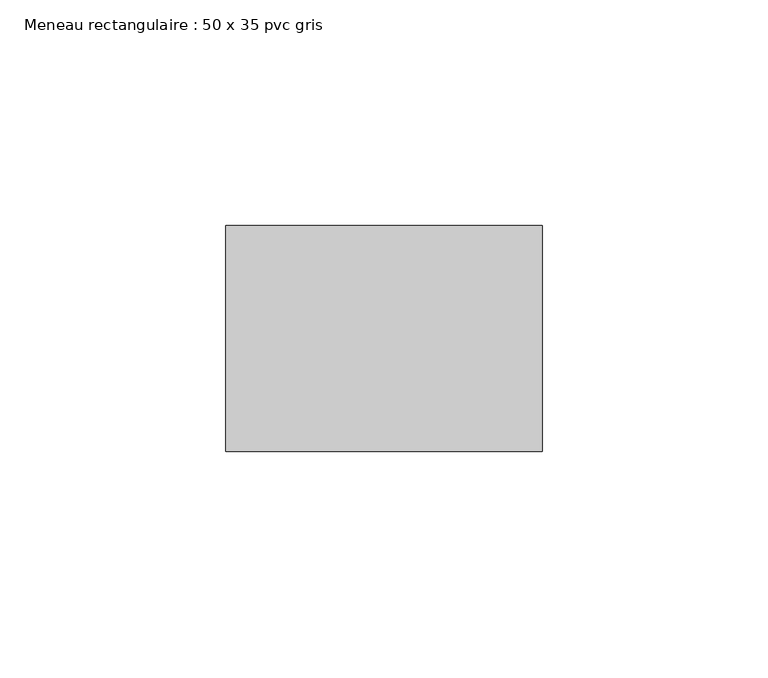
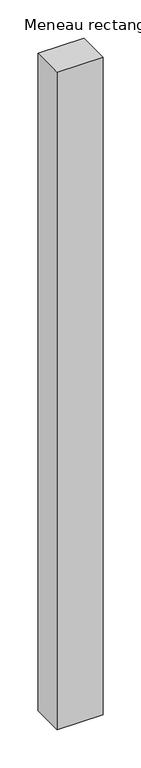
"""IFC4 building model written with IfcOpenShell, lengths in millimetres: member geometry, Meneau rectangulaire : 50 x 35 pvc gris."""

import ifcopenshell
import ifcopenshell.guid

model = None  # the IFC model being written
_history = None  # IfcOwnerHistory: only IFC2X3 demands one
_inside = {}  # id of a spatial element -> (the spatial element, [elements in it])
_under = {}  # id of a project, library or spatial element -> (it, [spatial elements below it])
_declared = {}  # id of a project -> (the project, [libraries it declares])
_typed = {}  # id of a type object -> (the type object, [elements of that type])
_made_of = {}  # id of a material, layer set ... -> (it, [elements and type objects made of it])


def new_model(schema):
    """Start an empty IFC model of exactly this schema.

    Asked for "IFC4X3", IfcOpenShell would pick the latest addendum, in which some entities
    have other attributes; the version numbers below select the first issue.
    IFC2X3 requires an IfcOwnerHistory on every rooted entity: one is made here for all.
    """
    global model, _history
    if schema == "IFC4X3":
        model = ifcopenshell.file(schema_version=(4, 3, 0, 0))
    else:
        model = ifcopenshell.file(schema=schema)
    _inside.clear()
    _under.clear()
    _declared.clear()
    _typed.clear()
    _made_of.clear()
    _history = None
    if model.schema == "IFC2X3":
        org = make("IfcOrganization", Name="unknown")
        user = make(
            "IfcPersonAndOrganization",
            ThePerson=make("IfcPerson", FamilyName="unknown"),
            TheOrganization=org,
        )
        app = make(
            "IfcApplication",
            ApplicationDeveloper=org,
            Version="unknown",
            ApplicationFullName="unknown",
            ApplicationIdentifier="unknown",
        )
        _history = make(
            "IfcOwnerHistory",
            OwningUser=user,
            OwningApplication=app,
            ChangeAction="ADDED",
            CreationDate=0,
        )
    return model


def make(cls, **values):
    """One entity of the class cls with the attributes given. An attribute that is None is left unset."""
    return model.create_entity(
        cls, **{name: value for name, value in values.items() if value is not None}
    )


def rooted(cls, **values):
    """An entity with a GlobalId (a new one), such as an element, a storey or a relation."""
    return make(cls, GlobalId=ifcopenshell.guid.new(), OwnerHistory=_history, **values)


def si_unit(unit_type, name, prefix=None):
    """IfcSIUnit, for example si_unit("LENGTHUNIT", "METRE", prefix="MILLI")."""
    return make("IfcSIUnit", UnitType=unit_type, Prefix=prefix, Name=name)


def assignment(units):
    """IfcUnitAssignment: the units of a project."""
    return None if units is None else make("IfcUnitAssignment", Units=units)


def point(xyz):
    """IfcCartesianPoint."""
    return None if xyz is None else make("IfcCartesianPoint", Coordinates=xyz)


def direction(xyz):
    """IfcDirection."""
    return None if xyz is None else make("IfcDirection", DirectionRatios=xyz)


def frame(location, z_axis=None, x_axis=None):
    """IfcAxis2Placement3D, a coordinate frame: its origin and axes. An axis left out is left unset."""
    return make(
        "IfcAxis2Placement3D",
        Location=point(location),
        Axis=direction(z_axis),
        RefDirection=direction(x_axis),
    )


def origin():
    """The frame at (0, 0, 0) with its axes left unset."""
    return frame((0.0, 0.0, 0.0))


def place(relative_to, where):
    """IfcLocalPlacement: puts the frame where relative to a parent placement (None: the world)."""
    return make(
        "IfcLocalPlacement", PlacementRelTo=relative_to, RelativePlacement=where
    )


def context(
    kind, dimensions, precision=None, world=None, true_north=None, identifier=None
):
    """IfcGeometricRepresentationContext, for example the 3D "Model" context."""
    return make(
        "IfcGeometricRepresentationContext",
        ContextIdentifier=identifier,
        ContextType=kind,
        CoordinateSpaceDimension=dimensions,
        Precision=precision,
        WorldCoordinateSystem=world,
        TrueNorth=true_north,
    )


def project(units=None, contexts=None):
    """IfcProject with its units and contexts."""
    return rooted(
        "IfcProject",
        Name="project",
        RepresentationContexts=contexts,
        UnitsInContext=assignment(units),
    )


def spatial(cls, under=None, at=None, **own):
    """A site, building, storey or space (cls), placed at a placement, below another one or the project."""
    s = rooted(cls, ObjectPlacement=at, **own)
    if under is not None:
        _under.setdefault(under.id(), (under, []))[1].append(s)
    return s


def polyline(points):
    """IfcPolyline through the points."""
    return make("IfcPolyline", Points=[point(p) for p in points])


def outline(outer, holes=None, kind="AREA"):
    """IfcArbitraryClosedProfileDef: a profile drawn as a closed curve; with holes, ...WithVoids."""
    if holes is None:
        return make("IfcArbitraryClosedProfileDef", ProfileType=kind, OuterCurve=outer)
    return make(
        "IfcArbitraryProfileDefWithVoids",
        ProfileType=kind,
        OuterCurve=outer,
        InnerCurves=holes,
    )


def extrude(swept, where, along, depth):
    """IfcExtrudedAreaSolid: the profile swept, set in the frame where, extruded along a direction by depth."""
    return make(
        "IfcExtrudedAreaSolid",
        SweptArea=swept,
        Position=where,
        ExtrudedDirection=direction(along),
        Depth=depth,
    )


def shape(context_of_items, identifier, shape_type, items):
    """IfcShapeRepresentation: the items that make up one representation, for example the "Body"."""
    return make(
        "IfcShapeRepresentation",
        ContextOfItems=context_of_items,
        RepresentationIdentifier=identifier,
        RepresentationType=shape_type,
        Items=items,
    )


def source(mapping_origin, context_of_items, identifier, shape_type, items):
    """IfcRepresentationMap: a shape defined once, which mapped items show again and again."""
    return make(
        "IfcRepresentationMap",
        MappingOrigin=mapping_origin,
        MappedRepresentation=shape(context_of_items, identifier, shape_type, items),
    )


def transform(
    local_origin,
    x_axis=None,
    y_axis=None,
    z_axis=None,
    scale=None,
    scale2=None,
    scale3=None,
    uniform=True,
):
    """IfcCartesianTransformationOperator3D, or its non-uniform kind. x_axis, y_axis, z_axis: its Axis1, 2, 3."""
    if uniform:
        return make(
            "IfcCartesianTransformationOperator3D",
            Axis1=direction(x_axis),
            Axis2=direction(y_axis),
            LocalOrigin=point(local_origin),
            Scale=scale,
            Axis3=direction(z_axis),
        )
    return make(
        "IfcCartesianTransformationOperator3DnonUniform",
        Axis1=direction(x_axis),
        Axis2=direction(y_axis),
        LocalOrigin=point(local_origin),
        Scale=scale,
        Axis3=direction(z_axis),
        Scale2=scale2,
        Scale3=scale3,
    )


def mapped(mapping_source, mapping_target):
    """IfcMappedItem: shows the shape of a source again, moved by a transform."""
    return make(
        "IfcMappedItem", MappingSource=mapping_source, MappingTarget=mapping_target
    )


def made_of(thing, what):
    """Note that an element or type object is made of a material, layer set ...; save() writes the relation."""
    if what is not None:
        _made_of.setdefault(what.id(), (what, []))[1].append(thing)
    return thing


def element(
    cls,
    number,
    at=None,
    inside=None,
    cuts=None,
    type_object=None,
    material=None,
    context=None,
    identifier="Body",
    shape_type=None,
    held_by="IfcProductDefinitionShape",
    body=None,
    shapes=None,
    **own,
):
    """One element of the class cls, such as IfcWall. Its Tag is "e" and its number.

    at: its placement. inside: the storey or other place that contains it. cuts: it is an
    opening in that element (IfcRelVoidsElement). A single representation is given by context,
    identifier, shape_type and body (its items); several are given by shapes. held_by: the class
    of the entity that holds the representations. save() writes the other relations.
    """
    e = rooted(cls, Tag="e%d" % number, ObjectPlacement=at, **own)
    if body is not None:
        shapes = [shape(context, identifier, shape_type, body)]
    if shapes is not None:
        e.Representation = make(held_by, Representations=shapes)
    if inside is not None:
        _inside.setdefault(inside.id(), (inside, []))[1].append(e)
    if cuts is not None:
        rooted(
            "IfcRelVoidsElement", RelatingBuildingElement=cuts, RelatedOpeningElement=e
        )
    if type_object is not None:
        _typed.setdefault(type_object.id(), (type_object, []))[1].append(e)
    return made_of(e, material)


def aggregate(whole, parts):
    """IfcRelAggregates: a whole, such as a stair, and the parts it consists of."""
    return rooted("IfcRelAggregates", RelatingObject=whole, RelatedObjects=parts)


def save(model, path):
    """Write the relations noted so far, then the file.

    IfcRelAggregates (storeys below a building ...), IfcRelContainedInSpatialStructure (elements
    in a storey), IfcRelDefinesByType, IfcRelAssociatesMaterial and IfcRelDeclares: one each for
    every whole, place, type object, material and project.
    """
    for whole, parts in _under.values():
        aggregate(whole, parts)
    for where, things in _inside.values():
        rooted(
            "IfcRelContainedInSpatialStructure",
            RelatedElements=things,
            RelatingStructure=where,
        )
    for kind, things in _typed.values():
        rooted("IfcRelDefinesByType", RelatedObjects=things, RelatingType=kind)
    for what, things in _made_of.values():
        rooted("IfcRelAssociatesMaterial", RelatedObjects=things, RelatingMaterial=what)
    for by, libraries in _declared.values():
        rooted("IfcRelDeclares", RelatingContext=by, RelatedDefinitions=libraries)
    model.write(path)


def meneau_rectangulaire_50_x_35_pvc_gris_62741eef(model_context):
    return source(origin(), model_context, "Body", "SweptSolid", [
        extrude(outline(polyline([(0.0, 0.0), (0.0, -50.0), (-70.0, -50.0), (-70.0, 0.0), (0.0, 0.0)])), frame((0.0, 0.0, -1054.0), z_axis=(0.0, 0.0, 1.0), x_axis=(1.0, 0.0, 0.0)), (0.0, 0.0, 1.0), 1054.0),
    ])


if __name__ == "__main__":
    model = new_model("IFC4")
    model_context = context("Model", 3, world=origin())
    ifc_project = project(units=[si_unit("LENGTHUNIT", "METRE", prefix="MILLI")], contexts=[model_context])
    site = spatial("IfcSite", under=ifc_project)
    building = spatial("IfcBuilding", under=site)
    placement = place(None, origin())
    meneau_rectangulaire_50_x_35_pvc_gris_shape = meneau_rectangulaire_50_x_35_pvc_gris_62741eef(model_context)
    element("IfcMember", 1, ObjectType="Meneau rectangulaire : 50 x 35 pvc gris", at=placement, inside=building, context=model_context, shape_type="MappedRepresentation", body=[
        mapped(meneau_rectangulaire_50_x_35_pvc_gris_shape, transform((0.0, 0.0, 0.0), x_axis=(1.0, 0.0, 0.0), y_axis=(0.0, 1.0, 0.0), z_axis=(0.0, 0.0, 1.0))),
    ])
    save(model, "model.ifc")
